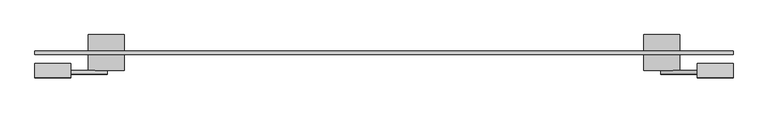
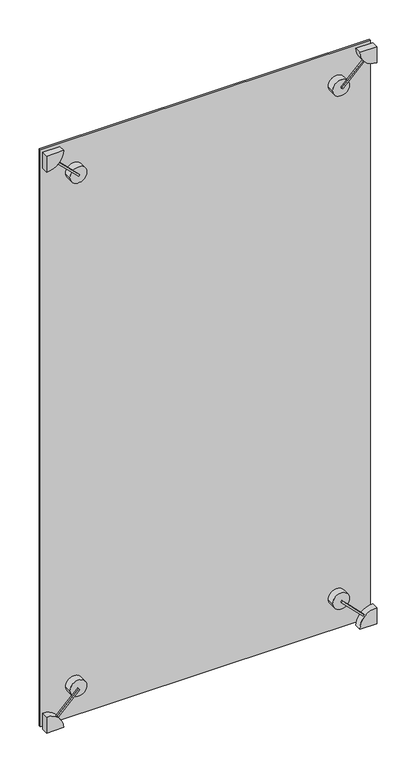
"""IFC4 building model written with IfcOpenShell, lengths in millimetres: plate geometry, 点爪式幕墙嵌板 : 点爪式幕墙嵌板."""

from ifc_helpers import new_model, si_unit, point, frame, frame_2d, origin, origin_with_axes, place, context, project, spatial, polyline, circle_curve, trimmed, segment, composite_curve, outline, extrude, source, transform, mapped, element, save
from ifc_brep_helpers import plane_surface, cylinder_surface, advanced_brep


def plate_2de22443(model_context):
    return source(origin(), model_context, "Body", "SolidModel", [
        extrude(outline(polyline([(0.0, -10.0), (0.0, 0.0), (10.0, 0.0), (10.0, -10.0), (0.0, -10.0)])), frame((-908.7667022, -60.0, 73.3043656), z_axis=(0.7071067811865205, 0.0, 0.7071067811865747), x_axis=(0.0, 1.0, 0.0)), (0.0, 0.0, 1.0), 181.331972),
        extrude(outline(composite_curve([segment(trimmed(circle_curve(frame_2d((0.0, -975.0)), 100.0), [point((0.0, -875.0))], [point((100.0, -975.0))], False, "CARTESIAN"), True, "CONTINUOUS"), segment(polyline([(100.0, -975.0), (0.0, -975.0), (0.0, -875.0)]), True, "CONTINUOUS")], self_intersect=False)), frame((0.0, -70.0, 0.0), z_axis=(0.0, 1.0, 0.0), x_axis=(0.0, 0.0, 1.0)), (0.0, 0.0, 1.0), 40.0),
        extrude(outline(composite_curve([segment(trimmed(circle_curve(frame_2d((199.0051024, -775.9948976)), 50.0), [point((199.0051024, -725.9948976))], [point((199.0051024, -825.9948976))], False, "CARTESIAN"), True, "CONTINUOUS"), segment(trimmed(circle_curve(frame_2d((199.0051024, -775.9948976)), 50.0), [point((199.0051024, -825.9948976))], [point((199.0051024, -725.9948976))], False, "CARTESIAN"), True, "CONTINUOUS")], self_intersect=False)), frame((0.0, -50.0, 0.0), z_axis=(0.0, 1.0, 0.0), x_axis=(0.0, 0.0, 1.0)), (0.0, 0.0, 1.0), 100.0),
        extrude(outline(polyline([(0.0, -181.3319719), (0.0, 0.0), (10.0, 0.0), (10.0, -181.3319719), (0.0, -181.3319719)])), frame((773.4745674, -60.0, 194.4543648), z_axis=(0.7071067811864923, 0.0, 0.7071067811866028), x_axis=(0.0, 1.0, 0.0)), (0.0, 0.0, 1.0), 10.0),
        extrude(outline(composite_curve([segment(polyline([(0.0, 875.0), (0.0, 975.0), (100.0, 975.0)]), True, "CONTINUOUS"), segment(trimmed(circle_curve(frame_2d((0.0, 975.0)), 100.0), [point((100.0, 975.0))], [point((0.0, 875.0))], False, "CARTESIAN"), True, "CONTINUOUS")], self_intersect=False)), frame((0.0, -70.0, 0.0), z_axis=(0.0, 1.0, 0.0), x_axis=(0.0, 0.0, 1.0)), (0.0, 0.0, 1.0), 40.0),
        extrude(outline(composite_curve([segment(trimmed(circle_curve(frame_2d((199.0051024, 775.9948976)), 50.0), [point((199.0051024, 725.9948976))], [point((199.0051024, 825.9948976))], False, "CARTESIAN"), True, "CONTINUOUS"), segment(trimmed(circle_curve(frame_2d((199.0051024, 775.9948976)), 50.0), [point((199.0051024, 825.9948976))], [point((199.0051024, 725.9948976))], False, "CARTESIAN"), True, "CONTINUOUS")], self_intersect=False)), frame((0.0, -50.0, 0.0), z_axis=(0.0, 1.0, 0.0), x_axis=(0.0, 0.0, 1.0)), (0.0, 0.0, 1.0), 100.0),
        extrude(outline(polyline([(0.0, -181.3319719), (0.0, 0.0), (10.0, 0.0), (10.0, -181.3319719), (0.0, -181.3319719)])), frame((-908.7667022, -60.0, 3526.6956344), z_axis=(0.7071067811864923, 0.0, 0.7071067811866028), x_axis=(0.0, 1.0, 0.0)), (0.0, 0.0, 1.0), 10.0),
        extrude(outline(composite_curve([segment(polyline([(3600.0, -875.0), (3600.0, -975.0), (3500.0, -975.0)]), True, "CONTINUOUS"), segment(trimmed(circle_curve(frame_2d((3600.0, -975.0)), 100.0), [point((3500.0, -975.0))], [point((3600.0, -875.0))], False, "CARTESIAN"), True, "CONTINUOUS")], self_intersect=False)), frame((0.0, -70.0, 0.0), z_axis=(0.0, 1.0, 0.0), x_axis=(0.0, 0.0, 1.0)), (0.0, 0.0, 1.0), 40.0),
        extrude(outline(composite_curve([segment(trimmed(circle_curve(frame_2d((3400.9948976, -775.9948976)), 50.0), [point((3400.9948976, -725.9948976))], [point((3400.9948976, -825.9948976))], False, "CARTESIAN"), True, "CONTINUOUS"), segment(trimmed(circle_curve(frame_2d((3400.9948976, -775.9948976)), 50.0), [point((3400.9948976, -825.9948976))], [point((3400.9948976, -725.9948976))], False, "CARTESIAN"), True, "CONTINUOUS")], self_intersect=False)), frame((0.0, -50.0, 0.0), z_axis=(0.0, 1.0, 0.0), x_axis=(0.0, 0.0, 1.0)), (0.0, 0.0, 1.0), 100.0),
        advanced_brep(
        [(725.9948976, -50.0, 3400.9948976), (825.9948976, -50.0, 3400.9948976), (814.7085497, -50.0, 3432.6374819), (780.5456352, -50.0, 3398.4745674), (773.4745674, -50.0, 3405.5456352), (807.6374819, -50.0, 3439.7085497), (725.9948976, 50.0, 3400.9948976), (825.9948976, 50.0, 3400.9948976), (773.4745674, -60.0, 3405.5456352), (780.5456352, -60.0, 3398.4745674), (907.9132994, -60.0, 3525.8422316), (900.8422316, -60.0, 3532.9132994), (900.8422316, -50.0, 3532.9132994), (907.9132994, -50.0, 3525.8422316), (875.0, -70.0, 3600.0), (975.0, -70.0, 3500.0), (975.0, -70.0, 3600.0), (875.0, -30.0, 3600.0), (975.0, -30.0, 3600.0), (975.0, -30.0, 3500.0)],
        [
            (0, 1, circle_curve(frame((775.9948976, -50.0, 3400.9948976), z_axis=(0.0, -1.0, 0.0), x_axis=(1.0, 0.0, 0.0)), 50.0)),
            (1, 2, circle_curve(frame((775.9948976, -50.0, 3400.9948976), z_axis=(0.0, -1.0, 0.0), x_axis=(1.0, 0.0, 0.0)), 50.0)),
            (2, 3),
            (3, 4),
            (4, 5),
            (5, 0, circle_curve(frame((775.9948976, -50.0, 3400.9948976), z_axis=(0.0, -1.0, 0.0), x_axis=(1.0, 0.0, 0.0)), 50.0)),
            (6, 7, circle_curve(frame((775.9948976, 50.0, 3400.9948976), z_axis=(0.0, 1.0, 0.0), x_axis=(1.0, 0.0, 0.0)), 50.0)),
            (7, 6, circle_curve(frame((775.9948976, 50.0, 3400.9948976), z_axis=(0.0, 1.0, 0.0), x_axis=(1.0, 0.0, 0.0)), 50.0)),
            (0, 6),
            (7, 1),
            (5, 2, circle_curve(frame((775.9948976, -50.0, 3400.9948976), z_axis=(0.0, 1.0, 0.0), x_axis=(1.0, 0.0, 0.0)), 50.0)),
            (8, 9),
            (9, 10),
            (10, 11, circle_curve(frame((975.0, -60.0, 3600.0), z_axis=(0.0, 1.0, 0.0), x_axis=(1.0, 0.0, 0.0)), 100.0)),
            (11, 8),
            (5, 12),
            (12, 13, circle_curve(frame((975.0, -50.0, 3600.0), z_axis=(0.0, -1.0, 0.0), x_axis=(1.0, 0.0, 0.0)), 100.0)),
            (13, 2),
            (4, 8),
            (11, 12),
            (3, 9),
            (13, 10),
            (14, 15, circle_curve(frame((975.0, -70.0, 3600.0), z_axis=(0.0, -1.0, 0.0), x_axis=(1.0, 0.0, 0.0)), 100.0)),
            (15, 16),
            (16, 14),
            (17, 18),
            (18, 19),
            (19, 17, circle_curve(frame((975.0, -30.0, 3600.0), z_axis=(0.0, 1.0, 0.0), x_axis=(1.0, 0.0, 0.0)), 100.0)),
            (14, 17),
            (19, 15),
            (18, 16),
        ],
        [
            plane_surface(frame((825.9948976, -50.0, 3400.9948976), z_axis=(0.0, -1.0, 0.0), x_axis=(0.0, 0.0, 1.0))),
            plane_surface(frame((825.9948976, 50.0, 3400.9948976), z_axis=(0.0, 1.0, 0.0), x_axis=(0.0, 0.0, -1.0))),
            cylinder_surface(frame((775.9948976, 50.0, 3400.9948976), z_axis=(0.0, -1.0, 0.0), x_axis=(1.0, 0.0, 0.0)), 50.0),
            plane_surface(frame((773.4745674, -60.0, 3405.5456352), z_axis=(0.0, -1.0000000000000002, 0.0), x_axis=(-0.7071067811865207, 0.0, -0.7071067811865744))),
            plane_surface(frame((773.4745674, -50.0, 3405.5456352), z_axis=(0.0, 1.0000000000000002, 0.0), x_axis=(0.7071067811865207, 0.0, 0.7071067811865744))),
            plane_surface(frame((901.6956344, -60.0, 3533.7667022), z_axis=(-0.7071067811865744, 0.0, 0.7071067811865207), x_axis=(0.0, 1.0, 0.0))),
            plane_surface(frame((773.4745674, -60.0, 3405.5456352), z_axis=(-0.7071067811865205, 0.0, -0.7071067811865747), x_axis=(0.0, 1.0, 0.0))),
            plane_surface(frame((780.5456352, -60.0, 3398.4745674), z_axis=(0.7071067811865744, 0.0, -0.7071067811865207), x_axis=(0.0, 1.0, 0.0))),
            plane_surface(frame((1075.0, -70.0, 3600.0), z_axis=(0.0, -1.0, 0.0), x_axis=(0.0, 0.0, 1.0))),
            plane_surface(frame((1075.0, -30.0, 3600.0), z_axis=(0.0, 1.0, 0.0), x_axis=(0.0, 0.0, -1.0))),
            cylinder_surface(frame((975.0, -30.0, 3600.0), z_axis=(0.0, -1.0, 0.0), x_axis=(1.0, 0.0, 0.0)), 100.0),
            plane_surface(frame((975.0, -70.0, 3500.0), z_axis=(1.0, 0.0, 0.0), x_axis=(0.0, 1.0, 0.0))),
            plane_surface(frame((975.0, -70.0, 3600.0), z_axis=(0.0, 0.0, 1.0), x_axis=(0.0, 1.0, 0.0))),
        ],
        [
            (0, [[1, 2, 3, 4, 5, 6]]),
            (1, [[7, 8]]),
            (2, [[-1, 9, -8, 10]]),
            (2, [[-7, -9, -6, 11, -2, -10]]),
            (3, [[12, 13, 14, 15]]),
            (4, [[-11, 16, 17, 18]]),
            (5, [[19, -15, 20, -16, -5]]),
            (6, [[-12, -19, -4, 21]]),
            (7, [[-21, -3, -18, 22, -13]]),
            (8, [[23, 24, 25]]),
            (9, [[26, 27, 28]]),
            (10, [[-23, 29, -28, 30], [-14, -22, -17, -20]]),
            (11, [[-24, -30, -27, 31]]),
            (12, [[-25, -31, -26, -29]]),
        ],
    ),
        extrude(outline(polyline([(975.0, 5.0), (975.0, -5.0), (-975.0, -5.0), (-975.0, 5.0), (975.0, 5.0)])), origin_with_axes(), (0.0, 0.0, 1.0), 3600.0),
    ])


if __name__ == "__main__":
    model = new_model("IFC4")
    model_context = context("Model", 3, world=origin())
    ifc_project = project(units=[si_unit("LENGTHUNIT", "METRE", prefix="MILLI")], contexts=[model_context])
    site = spatial("IfcSite", under=ifc_project)
    building = spatial("IfcBuilding", under=site)
    placement = place(None, origin())
    plate_shape = plate_2de22443(model_context)
    element("IfcPlate", 1, ObjectType="点爪式幕墙嵌板 : 点爪式幕墙嵌板", at=placement, inside=building, context=model_context, shape_type="MappedRepresentation", body=[
        mapped(plate_shape, transform((0.0, 0.0, 0.0), x_axis=(1.0, 0.0, 0.0), y_axis=(0.0, 1.0, 0.0), z_axis=(0.0, 0.0, 1.0))),
    ])
    save(model, "model.ifc")
